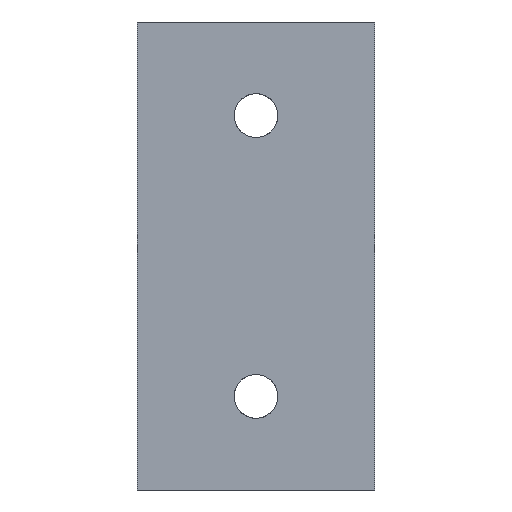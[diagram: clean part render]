
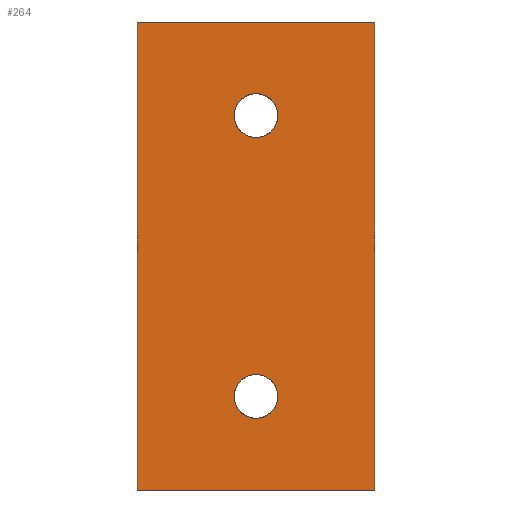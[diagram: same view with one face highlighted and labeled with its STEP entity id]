
A CAD part, front view. The second image highlights one B-rep face of the part: STEP entity #264.
In plain terms, the highlighted face is a extrusion surface.
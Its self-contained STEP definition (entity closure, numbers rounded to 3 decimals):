
#141=CARTESIAN_POINT('Control Point',(-19.,-5.,37.5)) ;
#142=CARTESIAN_POINT('Control Point',(-19.,-5.,-37.5)) ;
#146=CARTESIAN_POINT('Line Origine',(0.,-5.,-37.5)) ;
#150=CARTESIAN_POINT('Vertex',(-19.,-5.,-37.5)) ;
#152=CARTESIAN_POINT('Vertex',(19.,-5.,-37.5)) ;
#155=CARTESIAN_POINT('Line Origine',(19.,-5.,0.)) ;
#159=CARTESIAN_POINT('Vertex',(19.,-5.,37.5)) ;
#162=CARTESIAN_POINT('Line Origine',(0.,-5.,37.5)) ;
#166=CARTESIAN_POINT('Vertex',(-19.,-5.,37.5)) ;
#169=CARTESIAN_POINT('Line Origine',(-19.,-5.,0.)) ;
#181=CARTESIAN_POINT('Control Point',(3.5,-5.,22.5)) ;
#182=CARTESIAN_POINT('Control Point',(3.5,-5.,21.767)) ;
#183=CARTESIAN_POINT('Control Point',(3.308,-5.,21.034)) ;
#184=CARTESIAN_POINT('Control Point',(2.923,-5.,20.368)) ;
#185=CARTESIAN_POINT('Control Point',(2.115,-5.,19.569)) ;
#186=CARTESIAN_POINT('Control Point',(1.09,-5.,19.144)) ;
#187=CARTESIAN_POINT('Control Point',(0.732,-5.,19.048)) ;
#188=CARTESIAN_POINT('Control Point',(-0.001,-5.,18.952)) ;
#189=CARTESIAN_POINT('Control Point',(-0.734,-5.,19.048)) ;
#190=CARTESIAN_POINT('Control Point',(-1.093,-5.,19.144)) ;
#191=CARTESIAN_POINT('Control Point',(-2.116,-5.,19.57)) ;
#192=CARTESIAN_POINT('Control Point',(-2.924,-5.,20.369)) ;
#193=CARTESIAN_POINT('Control Point',(-3.308,-5.,21.035)) ;
#194=CARTESIAN_POINT('Control Point',(-3.5,-5.,21.767)) ;
#195=CARTESIAN_POINT('Control Point',(-3.5,-5.,22.5)) ;
#196=CARTESIAN_POINT('Vertex',(3.5,-5.,22.5)) ;
#198=CARTESIAN_POINT('Vertex',(-3.5,-5.,22.5)) ;
#202=CARTESIAN_POINT('Control Point',(-3.5,-5.,22.5)) ;
#203=CARTESIAN_POINT('Control Point',(-3.5,-5.,23.233)) ;
#204=CARTESIAN_POINT('Control Point',(-3.308,-5.,23.966)) ;
#205=CARTESIAN_POINT('Control Point',(-2.923,-5.,24.632)) ;
#206=CARTESIAN_POINT('Control Point',(-2.115,-5.,25.431)) ;
#207=CARTESIAN_POINT('Control Point',(-1.09,-5.,25.856)) ;
#208=CARTESIAN_POINT('Control Point',(-0.732,-5.,25.952)) ;
#209=CARTESIAN_POINT('Control Point',(0.001,-5.,26.048)) ;
#210=CARTESIAN_POINT('Control Point',(0.734,-5.,25.952)) ;
#211=CARTESIAN_POINT('Control Point',(1.093,-5.,25.856)) ;
#212=CARTESIAN_POINT('Control Point',(2.116,-5.,25.43)) ;
#213=CARTESIAN_POINT('Control Point',(2.924,-5.,24.631)) ;
#214=CARTESIAN_POINT('Control Point',(3.308,-5.,23.965)) ;
#215=CARTESIAN_POINT('Control Point',(3.5,-5.,23.233)) ;
#216=CARTESIAN_POINT('Control Point',(3.5,-5.,22.5)) ;
#223=CARTESIAN_POINT('Control Point',(3.5,-5.,-22.5)) ;
#224=CARTESIAN_POINT('Control Point',(3.5,-5.,-23.233)) ;
#225=CARTESIAN_POINT('Control Point',(3.308,-5.,-23.966)) ;
#226=CARTESIAN_POINT('Control Point',(2.923,-5.,-24.632)) ;
#227=CARTESIAN_POINT('Control Point',(2.115,-5.,-25.431)) ;
#228=CARTESIAN_POINT('Control Point',(1.09,-5.,-25.856)) ;
#229=CARTESIAN_POINT('Control Point',(0.732,-5.,-25.952)) ;
#230=CARTESIAN_POINT('Control Point',(-0.001,-5.,-26.048)) ;
#231=CARTESIAN_POINT('Control Point',(-0.734,-5.,-25.952)) ;
#232=CARTESIAN_POINT('Control Point',(-1.093,-5.,-25.856)) ;
#233=CARTESIAN_POINT('Control Point',(-2.116,-5.,-25.43)) ;
#234=CARTESIAN_POINT('Control Point',(-2.924,-5.,-24.631)) ;
#235=CARTESIAN_POINT('Control Point',(-3.308,-5.,-23.965)) ;
#236=CARTESIAN_POINT('Control Point',(-3.5,-5.,-23.233)) ;
#237=CARTESIAN_POINT('Control Point',(-3.5,-5.,-22.5)) ;
#238=CARTESIAN_POINT('Vertex',(3.5,-5.,-22.5)) ;
#240=CARTESIAN_POINT('Vertex',(-3.5,-5.,-22.5)) ;
#244=CARTESIAN_POINT('Control Point',(-3.5,-5.,-22.5)) ;
#245=CARTESIAN_POINT('Control Point',(-3.5,-5.,-21.767)) ;
#246=CARTESIAN_POINT('Control Point',(-3.308,-5.,-21.034)) ;
#247=CARTESIAN_POINT('Control Point',(-2.923,-5.,-20.368)) ;
#248=CARTESIAN_POINT('Control Point',(-2.115,-5.,-19.569)) ;
#249=CARTESIAN_POINT('Control Point',(-1.09,-5.,-19.144)) ;
#250=CARTESIAN_POINT('Control Point',(-0.732,-5.,-19.048)) ;
#251=CARTESIAN_POINT('Control Point',(0.001,-5.,-18.952)) ;
#252=CARTESIAN_POINT('Control Point',(0.734,-5.,-19.048)) ;
#253=CARTESIAN_POINT('Control Point',(1.093,-5.,-19.144)) ;
#254=CARTESIAN_POINT('Control Point',(2.116,-5.,-19.57)) ;
#255=CARTESIAN_POINT('Control Point',(2.924,-5.,-20.369)) ;
#256=CARTESIAN_POINT('Control Point',(3.308,-5.,-21.035)) ;
#257=CARTESIAN_POINT('Control Point',(3.5,-5.,-21.767)) ;
#258=CARTESIAN_POINT('Control Point',(3.5,-5.,-22.5)) ;
#143=DIRECTION('Vector Direction',(1.,0.,0.)) ;
#147=DIRECTION('Vector Direction',(1.,0.,0.)) ;
#156=DIRECTION('Vector Direction',(0.,0.,-1.)) ;
#163=DIRECTION('Vector Direction',(1.,0.,0.)) ;
#170=DIRECTION('Vector Direction',(0.,0.,-1.)) ;
#175=ORIENTED_EDGE('',*,*,#154,.T.) ;
#176=ORIENTED_EDGE('',*,*,#161,.T.) ;
#177=ORIENTED_EDGE('',*,*,#168,.T.) ;
#178=ORIENTED_EDGE('',*,*,#173,.T.) ;
#219=ORIENTED_EDGE('',*,*,#200,.T.) ;
#220=ORIENTED_EDGE('',*,*,#217,.T.) ;
#261=ORIENTED_EDGE('',*,*,#242,.T.) ;
#262=ORIENTED_EDGE('',*,*,#259,.T.) ;
#221=FACE_BOUND('',#218,.T.) ;
#263=FACE_BOUND('',#260,.T.) ;
#144=VECTOR('Extrusion Surface Vector',#143,1.) ;
#148=VECTOR('Line Direction',#147,1.) ;
#157=VECTOR('Line Direction',#156,1.) ;
#164=VECTOR('Line Direction',#163,1.) ;
#171=VECTOR('Line Direction',#170,1.) ;
#264=ADVANCED_FACE('Superficie.3',(#179,#221,#263),#145,.T.) ;
#140=B_SPLINE_CURVE_WITH_KNOTS('',1,(#141,#142),.UNSPECIFIED.,.F.,.U.,(2,2),(-37.5,37.5),.UNSPECIFIED.) ;
#180=B_SPLINE_CURVE_WITH_KNOTS('',5,(#181,#182,#183,#184,#185,#186,#187,#188,#189,#190,#191,#192,#193,#194,#195),.UNSPECIFIED.,.F.,.U.,(6,3,3,3,6),(0.,5.185,7.777,10.369,15.55),.UNSPECIFIED.) ;
#201=B_SPLINE_CURVE_WITH_KNOTS('',5,(#202,#203,#204,#205,#206,#207,#208,#209,#210,#211,#212,#213,#214,#215,#216),.UNSPECIFIED.,.F.,.U.,(6,3,3,3,6),(0.,5.185,7.777,10.369,15.55),.UNSPECIFIED.) ;
#222=B_SPLINE_CURVE_WITH_KNOTS('',5,(#223,#224,#225,#226,#227,#228,#229,#230,#231,#232,#233,#234,#235,#236,#237),.UNSPECIFIED.,.F.,.U.,(6,3,3,3,6),(0.,5.185,7.777,10.369,15.55),.UNSPECIFIED.) ;
#243=B_SPLINE_CURVE_WITH_KNOTS('',5,(#244,#245,#246,#247,#248,#249,#250,#251,#252,#253,#254,#255,#256,#257,#258),.UNSPECIFIED.,.F.,.U.,(6,3,3,3,6),(0.,5.185,7.777,10.369,15.55),.UNSPECIFIED.) ;
#154=EDGE_CURVE('',#151,#153,#149,.T.) ;
#161=EDGE_CURVE('',#153,#160,#158,.F.) ;
#168=EDGE_CURVE('',#160,#167,#165,.F.) ;
#173=EDGE_CURVE('',#167,#151,#172,.T.) ;
#200=EDGE_CURVE('',#197,#199,#180,.T.) ;
#217=EDGE_CURVE('',#199,#197,#201,.T.) ;
#242=EDGE_CURVE('',#239,#241,#222,.T.) ;
#259=EDGE_CURVE('',#241,#239,#243,.T.) ;
#174=EDGE_LOOP('',(#175,#176,#177,#178)) ;
#218=EDGE_LOOP('',(#219,#220)) ;
#260=EDGE_LOOP('',(#261,#262)) ;
#179=FACE_OUTER_BOUND('',#174,.T.) ;
#149=LINE('Line',#146,#148) ;
#158=LINE('Line',#155,#157) ;
#165=LINE('Line',#162,#164) ;
#172=LINE('Line',#169,#171) ;
#145=SURFACE_OF_LINEAR_EXTRUSION('generated tabulated cylinder',#140,#144) ;
#151=VERTEX_POINT('',#150) ;
#153=VERTEX_POINT('',#152) ;
#160=VERTEX_POINT('',#159) ;
#167=VERTEX_POINT('',#166) ;
#197=VERTEX_POINT('',#196) ;
#199=VERTEX_POINT('',#198) ;
#239=VERTEX_POINT('',#238) ;
#241=VERTEX_POINT('',#240) ;
